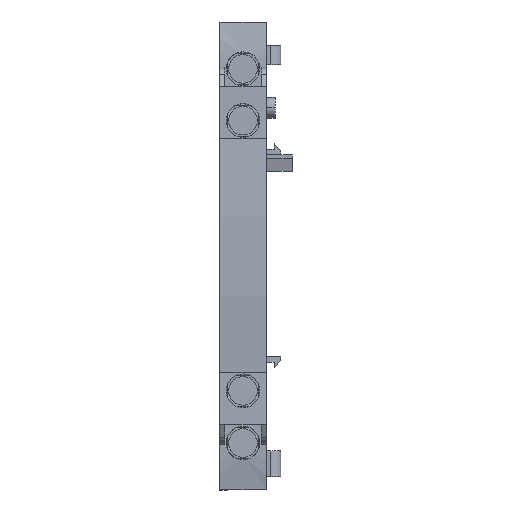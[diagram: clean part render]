
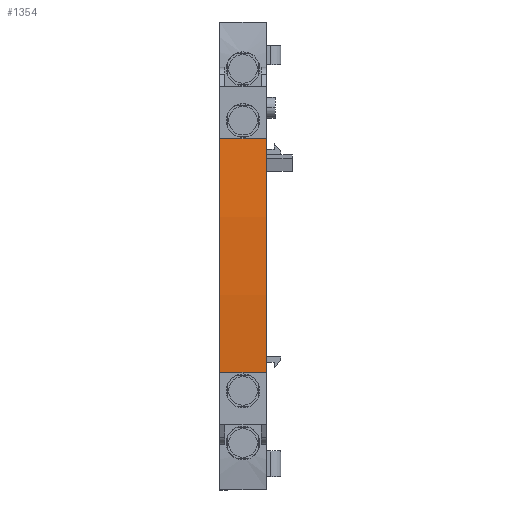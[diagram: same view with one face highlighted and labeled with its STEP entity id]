
A CAD part, top view. The second image highlights one B-rep face of the part: STEP entity #1354.
In plain terms, the highlighted cylindrical face has radius 253.625 mm (diameter 507.25 mm), a partial arc.
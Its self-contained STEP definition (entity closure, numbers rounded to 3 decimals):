
#60 = EDGE_CURVE ( 'NONE', #423, #229, #2164, .T. ) ;
#174 = EDGE_CURVE ( 'NONE', #364, #360, #2383, .T. ) ;
#229 = VERTEX_POINT ( 'NONE', #2502 ) ;
#360 = VERTEX_POINT ( 'NONE', #2799 ) ;
#364 = VERTEX_POINT ( 'NONE', #2796 ) ;
#423 = VERTEX_POINT ( 'NONE', #2934 ) ;
#660 = EDGE_CURVE ( 'NONE', #229, #364, #3548, .T. ) ;
#1008 = EDGE_CURVE ( 'NONE', #423, #360, #4018, .T. ) ;
#1354 = ADVANCED_FACE ( 'NONE', ( #4715 ), #4700, .T. ) ;
#1355 = ORIENTED_EDGE ( 'NONE', *, *, #60, .T. ) ;
#1358 = ORIENTED_EDGE ( 'NONE', *, *, #174, .T. ) ;
#1463 = ORIENTED_EDGE ( 'NONE', *, *, #660, .T. ) ;
#1465 = EDGE_LOOP ( 'NONE', ( #1355, #1463, #1358, #1467 ) ) ;
#1467 = ORIENTED_EDGE ( 'NONE', *, *, #1008, .F. ) ;
#2101 = CARTESIAN_POINT ( 'NONE',  ( -9., 0., -186.625 ) ) ;
#2133 = AXIS2_PLACEMENT_3D ( 'NONE', #2101, #2180, #2179 ) ;
#2164 = CIRCLE ( 'NONE', #2133, 253.625 ) ;
#2179 = DIRECTION ( 'NONE',  ( 0., 0., -1. ) ) ;
#2180 = DIRECTION ( 'NONE',  ( 1., 0., 0. ) ) ;
#2383 = CIRCLE ( 'NONE', #2418, 253.625 ) ;
#2403 = DIRECTION ( 'NONE',  ( 0., 0., -1. ) ) ;
#2404 = DIRECTION ( 'NONE',  ( -1., 0., 0. ) ) ;
#2405 = CARTESIAN_POINT ( 'NONE',  ( 0., 0., -186.625 ) ) ;
#2418 = AXIS2_PLACEMENT_3D ( 'NONE', #2405, #2404, #2403 ) ;
#2502 = CARTESIAN_POINT ( 'NONE',  ( -9., -22.5, 66. ) ) ;
#2796 = CARTESIAN_POINT ( 'NONE',  ( 0., -22.5, 66. ) ) ;
#2799 = CARTESIAN_POINT ( 'NONE',  ( 0., 22.5, 66. ) ) ;
#2934 = CARTESIAN_POINT ( 'NONE',  ( -9., 22.5, 66. ) ) ;
#3410 = CARTESIAN_POINT ( 'NONE',  ( -9.001, -22.5, 66. ) ) ;
#3546 = DIRECTION ( 'NONE',  ( 1., 0., 0. ) ) ;
#3547 = VECTOR ( 'NONE', #3546, 1000. ) ;
#3548 = LINE ( 'NONE', #3410, #3547 ) ;
#4015 = DIRECTION ( 'NONE',  ( 1., 0., 0. ) ) ;
#4016 = VECTOR ( 'NONE', #4015, 1000. ) ;
#4017 = CARTESIAN_POINT ( 'NONE',  ( -9.001, 22.5, 66. ) ) ;
#4018 = LINE ( 'NONE', #4017, #4016 ) ;
#4635 = DIRECTION ( 'NONE',  ( 1., 0., 0. ) ) ;
#4700 = CYLINDRICAL_SURFACE ( 'NONE', #4707, 253.625 ) ;
#4707 = AXIS2_PLACEMENT_3D ( 'NONE', #4714, #4635, #4716 ) ;
#4714 = CARTESIAN_POINT ( 'NONE',  ( -9.001, 0., -186.625 ) ) ;
#4715 = FACE_OUTER_BOUND ( 'NONE', #1465, .T. ) ;
#4716 = DIRECTION ( 'NONE',  ( 0., 0., -1. ) ) ;
